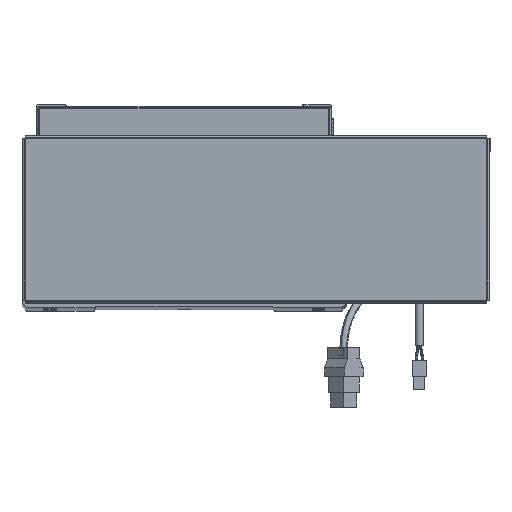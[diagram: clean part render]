
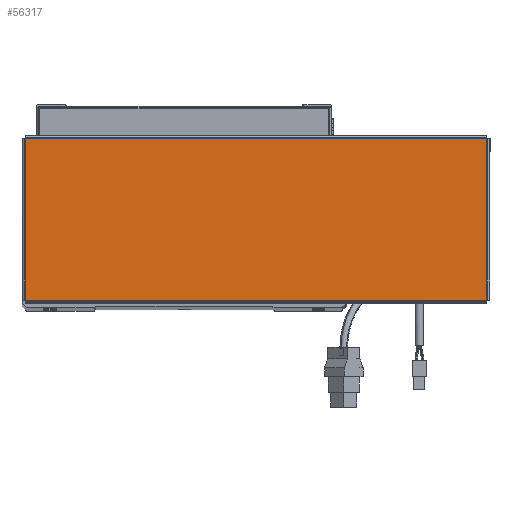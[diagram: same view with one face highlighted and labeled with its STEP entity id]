
A CAD part, top view. The second image highlights one B-rep face of the part: STEP entity #56317.
In plain terms, the highlighted planar face has unit normal (0, 0, 1).
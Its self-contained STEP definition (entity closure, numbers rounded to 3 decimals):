
#4278 = CARTESIAN_POINT ( 'NONE',  ( -156.543, -54.763, 0. ) ) ;
#6996 = ORIENTED_EDGE ( 'NONE', *, *, #32439, .T. ) ;
#7439 = DIRECTION ( 'NONE',  ( -1., 0., 0. ) ) ;
#7734 = FACE_OUTER_BOUND ( 'NONE', #50833, .T. ) ;
#8836 = DIRECTION ( 'NONE',  ( 0., 0., 1. ) ) ;
#11128 = LINE ( 'NONE', #4278, #58187 ) ;
#12725 = EDGE_CURVE ( 'NONE', #29143, #59542, #37418, .T. ) ;
#16267 = CARTESIAN_POINT ( 'NONE',  ( 156.513, -54.793, 0. ) ) ;
#16505 = CARTESIAN_POINT ( 'NONE',  ( 156.513, 54.763, 0. ) ) ;
#17756 = AXIS2_PLACEMENT_3D ( 'NONE', #19251, #8836, #28746 ) ;
#18743 = CARTESIAN_POINT ( 'NONE',  ( -156.513, -54.763, 0. ) ) ;
#19251 = CARTESIAN_POINT ( 'NONE',  ( 0., 0., 0. ) ) ;
#19583 = VECTOR ( 'NONE', #21478, 1000. ) ;
#20316 = DIRECTION ( 'NONE',  ( 1., 0., 0. ) ) ;
#20877 = ORIENTED_EDGE ( 'NONE', *, *, #36013, .T. ) ;
#21478 = DIRECTION ( 'NONE',  ( 0., 1., 0. ) ) ;
#24052 = LINE ( 'NONE', #30684, #46788 ) ;
#26551 = VERTEX_POINT ( 'NONE', #29271 ) ;
#28746 = DIRECTION ( 'NONE',  ( 1., 0., 0. ) ) ;
#29143 = VERTEX_POINT ( 'NONE', #57032 ) ;
#29271 = CARTESIAN_POINT ( 'NONE',  ( -156.513, 54.763, 0. ) ) ;
#30684 = CARTESIAN_POINT ( 'NONE',  ( -156.513, 54.793, 0. ) ) ;
#32439 = EDGE_CURVE ( 'NONE', #61336, #29143, #11128, .T. ) ;
#32567 = EDGE_CURVE ( 'NONE', #26551, #61336, #24052, .T. ) ;
#36013 = EDGE_CURVE ( 'NONE', #59542, #26551, #45940, .T. ) ;
#36271 = ORIENTED_EDGE ( 'NONE', *, *, #12725, .T. ) ;
#37418 = LINE ( 'NONE', #16267, #19583 ) ;
#44064 = ORIENTED_EDGE ( 'NONE', *, *, #32567, .T. ) ;
#45338 = PLANE ( 'NONE',  #17756 ) ;
#45940 = LINE ( 'NONE', #64348, #48308 ) ;
#46788 = VECTOR ( 'NONE', #52240, 1000. ) ;
#48308 = VECTOR ( 'NONE', #7439, 1000. ) ;
#50833 = EDGE_LOOP ( 'NONE', ( #6996, #36271, #20877, #44064 ) ) ;
#52240 = DIRECTION ( 'NONE',  ( 0., -1., 0. ) ) ;
#56317 = ADVANCED_FACE ( 'NONE', ( #7734 ), #45338, .T. ) ;
#57032 = CARTESIAN_POINT ( 'NONE',  ( 156.513, -54.763, 0. ) ) ;
#58187 = VECTOR ( 'NONE', #20316, 1000. ) ;
#59542 = VERTEX_POINT ( 'NONE', #16505 ) ;
#61336 = VERTEX_POINT ( 'NONE', #18743 ) ;
#64348 = CARTESIAN_POINT ( 'NONE',  ( 156.543, 54.763, 0. ) ) ;
